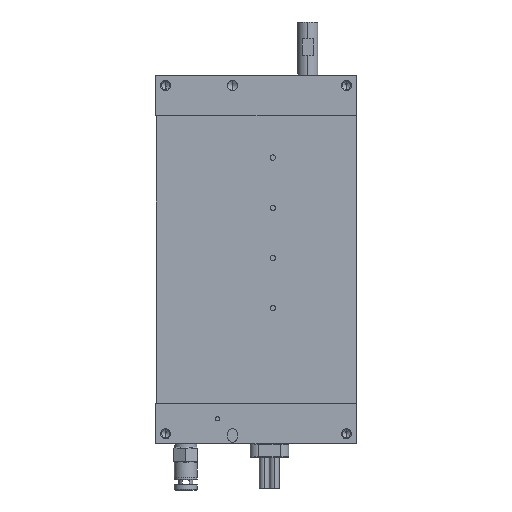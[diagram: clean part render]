
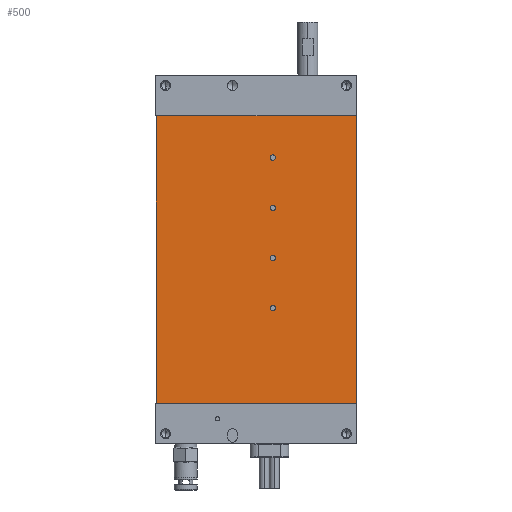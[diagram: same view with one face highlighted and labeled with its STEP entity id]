
A CAD part, front view. The second image highlights one B-rep face of the part: STEP entity #500.
In plain terms, the highlighted planar face has unit normal (0, -1, 0).
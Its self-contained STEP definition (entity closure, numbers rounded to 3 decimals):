
#195 = CARTESIAN_POINT ( 'NONE',  ( 0.2, -8.469, 98. ) ) ;
#446 = AXIS2_PLACEMENT_3D ( 'NONE', #8227, #1993, #9283 ) ;
#447 = VERTEX_POINT ( 'NONE', #5901 ) ;
#500 = ADVANCED_FACE ( 'NONE', ( #1858, #1947, #2323, #1816, #1781 ), #12958, .F. ) ;
#906 = DIRECTION ( 'NONE',  ( 0., 0., -1. ) ) ;
#996 = EDGE_CURVE ( 'NONE', #1902, #3616, #13448, .T. ) ;
#1260 = DIRECTION ( 'NONE',  ( 0., -1., 0. ) ) ;
#1315 = CARTESIAN_POINT ( 'NONE',  ( 35., -8.469, 55.5 ) ) ;
#1622 = CARTESIAN_POINT ( 'NONE',  ( 30.1, -8.469, 98. ) ) ;
#1640 = AXIS2_PLACEMENT_3D ( 'NONE', #1315, #8589, #2369 ) ;
#1729 = DIRECTION ( 'NONE',  ( 0., -1., 0. ) ) ;
#1781 = FACE_OUTER_BOUND ( 'NONE', #7331, .T. ) ;
#1791 = ORIENTED_EDGE ( 'NONE', *, *, #5492, .F. ) ;
#1799 = CARTESIAN_POINT ( 'NONE',  ( 30.1, -8.469, 55. ) ) ;
#1816 = FACE_BOUND ( 'NONE', #10119, .T. ) ;
#1858 = FACE_BOUND ( 'NONE', #9594, .T. ) ;
#1884 = CARTESIAN_POINT ( 'NONE',  ( 60., -8.469, 55. ) ) ;
#1902 = VERTEX_POINT ( 'NONE', #10971 ) ;
#1947 = FACE_BOUND ( 'NONE', #2451, .T. ) ;
#1993 = DIRECTION ( 'NONE',  ( 0., -1., 0. ) ) ;
#2317 = DIRECTION ( 'NONE',  ( 0., -1., 0. ) ) ;
#2323 = FACE_BOUND ( 'NONE', #7592, .T. ) ;
#2369 = DIRECTION ( 'NONE',  ( 0., 0., -1. ) ) ;
#2451 = EDGE_LOOP ( 'NONE', ( #10851, #5392 ) ) ;
#2697 = CIRCLE ( 'NONE', #8140, 0.783 ) ;
#2706 = EDGE_CURVE ( 'NONE', #9011, #1902, #11500, .T. ) ;
#2707 = CARTESIAN_POINT ( 'NONE',  ( 35., -8.469, 69.716 ) ) ;
#2718 = AXIS2_PLACEMENT_3D ( 'NONE', #1799, #12933, #12750 ) ;
#2754 = CIRCLE ( 'NONE', #7729, 0.783 ) ;
#2807 = ORIENTED_EDGE ( 'NONE', *, *, #11873, .F. ) ;
#2842 = CARTESIAN_POINT ( 'NONE',  ( 35., -8.469, 84.717 ) ) ;
#2928 = CARTESIAN_POINT ( 'NONE',  ( 0.2, -8.469, 12. ) ) ;
#3459 = VECTOR ( 'NONE', #7857, 1000. ) ;
#3616 = VERTEX_POINT ( 'NONE', #2928 ) ;
#3704 = ORIENTED_EDGE ( 'NONE', *, *, #8854, .F. ) ;
#3707 = CIRCLE ( 'NONE', #9442, 0.783 ) ;
#4270 = LINE ( 'NONE', #1622, #3459 ) ;
#4310 = CARTESIAN_POINT ( 'NONE',  ( 35., -8.469, 70.5 ) ) ;
#4882 = AXIS2_PLACEMENT_3D ( 'NONE', #4310, #11615, #5362 ) ;
#5198 = EDGE_CURVE ( 'NONE', #3616, #6989, #5562, .T. ) ;
#5210 = CARTESIAN_POINT ( 'NONE',  ( 30.1, -8.469, 12. ) ) ;
#5233 = CARTESIAN_POINT ( 'NONE',  ( 0.2, -8.469, 55. ) ) ;
#5313 = DIRECTION ( 'NONE',  ( 0., -1., 0. ) ) ;
#5362 = DIRECTION ( 'NONE',  ( 0., 0., -1. ) ) ;
#5392 = ORIENTED_EDGE ( 'NONE', *, *, #6296, .F. ) ;
#5444 = DIRECTION ( 'NONE',  ( -1., 0., 0. ) ) ;
#5492 = EDGE_CURVE ( 'NONE', #6989, #9011, #4270, .T. ) ;
#5562 = LINE ( 'NONE', #5233, #8976 ) ;
#5901 = CARTESIAN_POINT ( 'NONE',  ( 35., -8.469, 39.717 ) ) ;
#6059 = VERTEX_POINT ( 'NONE', #13275 ) ;
#6285 = DIRECTION ( 'NONE',  ( 0., 0., 1. ) ) ;
#6296 = EDGE_CURVE ( 'NONE', #8944, #12302, #11394, .T. ) ;
#6457 = VERTEX_POINT ( 'NONE', #12924 ) ;
#6638 = CARTESIAN_POINT ( 'NONE',  ( 35., -8.469, 71.284 ) ) ;
#6833 = ORIENTED_EDGE ( 'NONE', *, *, #7289, .F. ) ;
#6989 = VERTEX_POINT ( 'NONE', #195 ) ;
#7161 = DIRECTION ( 'NONE',  ( 0., -1., 0. ) ) ;
#7289 = EDGE_CURVE ( 'NONE', #12443, #447, #3707, .T. ) ;
#7331 = EDGE_LOOP ( 'NONE', ( #10758, #8806, #1791, #12494 ) ) ;
#7498 = CARTESIAN_POINT ( 'NONE',  ( 35., -8.469, 85.5 ) ) ;
#7592 = EDGE_LOOP ( 'NONE', ( #13105, #2807 ) ) ;
#7704 = ORIENTED_EDGE ( 'NONE', *, *, #9654, .F. ) ;
#7729 = AXIS2_PLACEMENT_3D ( 'NONE', #7964, #1729, #9022 ) ;
#7761 = CARTESIAN_POINT ( 'NONE',  ( 60., -8.469, 98. ) ) ;
#7857 = DIRECTION ( 'NONE',  ( 1., 0., 0. ) ) ;
#7893 = EDGE_CURVE ( 'NONE', #12302, #8944, #11498, .T. ) ;
#7964 = CARTESIAN_POINT ( 'NONE',  ( 35., -8.469, 40.5 ) ) ;
#8038 = EDGE_CURVE ( 'NONE', #6059, #12359, #2697, .T. ) ;
#8140 = AXIS2_PLACEMENT_3D ( 'NONE', #7498, #1260, #8544 ) ;
#8227 = CARTESIAN_POINT ( 'NONE',  ( 35., -8.469, 70.5 ) ) ;
#8539 = CARTESIAN_POINT ( 'NONE',  ( 35., -8.469, 85.5 ) ) ;
#8544 = DIRECTION ( 'NONE',  ( 0., 0., -1. ) ) ;
#8589 = DIRECTION ( 'NONE',  ( 0., -1., 0. ) ) ;
#8806 = ORIENTED_EDGE ( 'NONE', *, *, #2706, .F. ) ;
#8854 = EDGE_CURVE ( 'NONE', #12359, #6059, #12665, .T. ) ;
#8944 = VERTEX_POINT ( 'NONE', #6638 ) ;
#8976 = VECTOR ( 'NONE', #6285, 1000. ) ;
#9011 = VERTEX_POINT ( 'NONE', #7761 ) ;
#9022 = DIRECTION ( 'NONE',  ( 0., 0., -1. ) ) ;
#9177 = DIRECTION ( 'NONE',  ( 0., 0., -1. ) ) ;
#9283 = DIRECTION ( 'NONE',  ( 0., 0., -1. ) ) ;
#9312 = VERTEX_POINT ( 'NONE', #10399 ) ;
#9442 = AXIS2_PLACEMENT_3D ( 'NONE', #13421, #7161, #906 ) ;
#9594 = EDGE_LOOP ( 'NONE', ( #3704, #10839 ) ) ;
#9595 = DIRECTION ( 'NONE',  ( 0., 0., -1. ) ) ;
#9654 = EDGE_CURVE ( 'NONE', #447, #12443, #2754, .T. ) ;
#10119 = EDGE_LOOP ( 'NONE', ( #7704, #6833 ) ) ;
#10289 = AXIS2_PLACEMENT_3D ( 'NONE', #11557, #5313, #12607 ) ;
#10399 = CARTESIAN_POINT ( 'NONE',  ( 35., -8.469, 54.717 ) ) ;
#10635 = CIRCLE ( 'NONE', #10289, 0.783 ) ;
#10758 = ORIENTED_EDGE ( 'NONE', *, *, #996, .F. ) ;
#10839 = ORIENTED_EDGE ( 'NONE', *, *, #8038, .F. ) ;
#10851 = ORIENTED_EDGE ( 'NONE', *, *, #7893, .F. ) ;
#10971 = CARTESIAN_POINT ( 'NONE',  ( 60., -8.469, 12. ) ) ;
#11394 = CIRCLE ( 'NONE', #4882, 0.784 ) ;
#11498 = CIRCLE ( 'NONE', #446, 0.784 ) ;
#11500 = LINE ( 'NONE', #1884, #12319 ) ;
#11557 = CARTESIAN_POINT ( 'NONE',  ( 35., -8.469, 55.5 ) ) ;
#11615 = DIRECTION ( 'NONE',  ( 0., -1., 0. ) ) ;
#11623 = CIRCLE ( 'NONE', #1640, 0.783 ) ;
#11873 = EDGE_CURVE ( 'NONE', #6457, #9312, #10635, .T. ) ;
#11978 = EDGE_CURVE ( 'NONE', #9312, #6457, #11623, .T. ) ;
#12259 = AXIS2_PLACEMENT_3D ( 'NONE', #8539, #2317, #9595 ) ;
#12302 = VERTEX_POINT ( 'NONE', #2707 ) ;
#12319 = VECTOR ( 'NONE', #9177, 1000. ) ;
#12359 = VERTEX_POINT ( 'NONE', #2842 ) ;
#12443 = VERTEX_POINT ( 'NONE', #13395 ) ;
#12494 = ORIENTED_EDGE ( 'NONE', *, *, #5198, .F. ) ;
#12607 = DIRECTION ( 'NONE',  ( 0., 0., -1. ) ) ;
#12665 = CIRCLE ( 'NONE', #12259, 0.783 ) ;
#12750 = DIRECTION ( 'NONE',  ( 0., 0., 1. ) ) ;
#12924 = CARTESIAN_POINT ( 'NONE',  ( 35., -8.469, 56.284 ) ) ;
#12933 = DIRECTION ( 'NONE',  ( 0., 1., 0. ) ) ;
#12958 = PLANE ( 'NONE',  #2718 ) ;
#13101 = VECTOR ( 'NONE', #5444, 1000. ) ;
#13105 = ORIENTED_EDGE ( 'NONE', *, *, #11978, .F. ) ;
#13275 = CARTESIAN_POINT ( 'NONE',  ( 35., -8.469, 86.284 ) ) ;
#13395 = CARTESIAN_POINT ( 'NONE',  ( 35., -8.469, 41.284 ) ) ;
#13421 = CARTESIAN_POINT ( 'NONE',  ( 35., -8.469, 40.5 ) ) ;
#13448 = LINE ( 'NONE', #5210, #13101 ) ;
